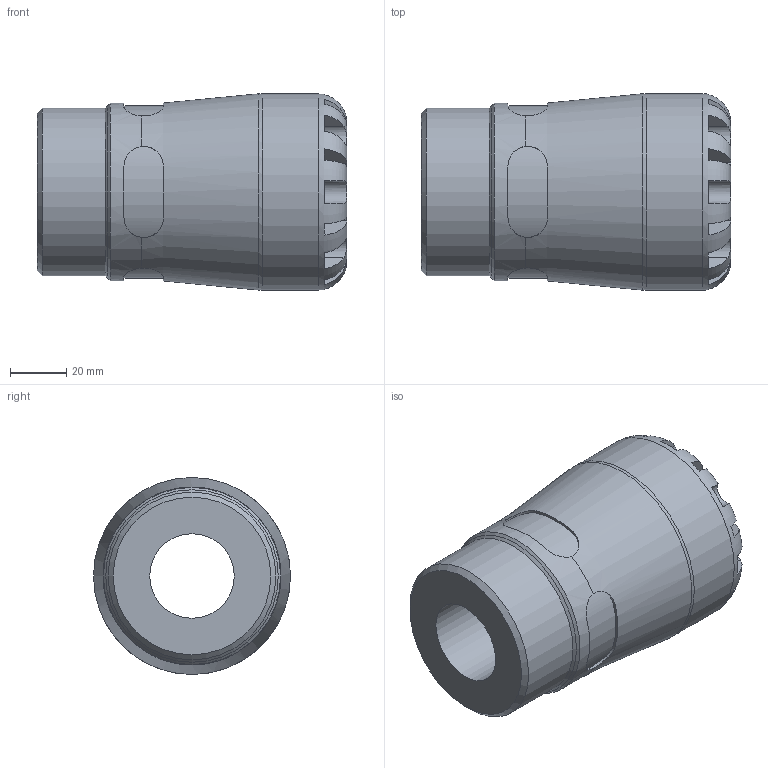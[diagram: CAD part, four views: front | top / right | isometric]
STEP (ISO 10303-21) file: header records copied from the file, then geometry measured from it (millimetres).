
FILE_DESCRIPTION(/* description */ ('PLASSON MALE ADAPTOR 40X2" SERIES 1'),/* implementation_level */ '2;1');
FILE_NAME(/* name */ 'C:\Dropbox\KIMPROJECTS-Inventor\99-16-3568-Processing\S1\1002\100200040020_190200040020.ipt.stp',/* time_stamp */ '2017-07-27T14:39:31+03:00',/* author */ ('KIM'),/* organization */ (''),/* preprocessor_version */ 'ST-DEVELOPER v15.6',/* originating_system */ 'Autodesk Inventor 2015',/* authorisation */ '');
FILE_SCHEMA (('AUTOMOTIVE_DESIGN { 1 0 10303 214 3 1 1 }'));
Length unit declared in the file: millimetre
Products named in the file (1): 100200040020_190200040020
Bounding box: 110 x 70 x 70 mm (x, y, z)
Volume: 238638.8 mm3; surface area: 41518.9 mm2
Topology: 1 solids, 1 shells, 99 faces, 258 edges, 162 vertices
Faces by surface type: plane 59, cylinder 33, torus 5, cone 2
Full cylindrical faces by diameter (mm): 30 x1, 40 x1, 59.614 x1, 63 x1, 70 x1
Entity records: 3756 total; most frequent: CARTESIAN_POINT 1454, ORIENTED_EDGE 482, DIRECTION 458, EDGE_CURVE 241, AXIS2_PLACEMENT_3D 189, VERTEX_POINT 157, EDGE_LOOP 114, FACE_OUTER_BOUND 99
